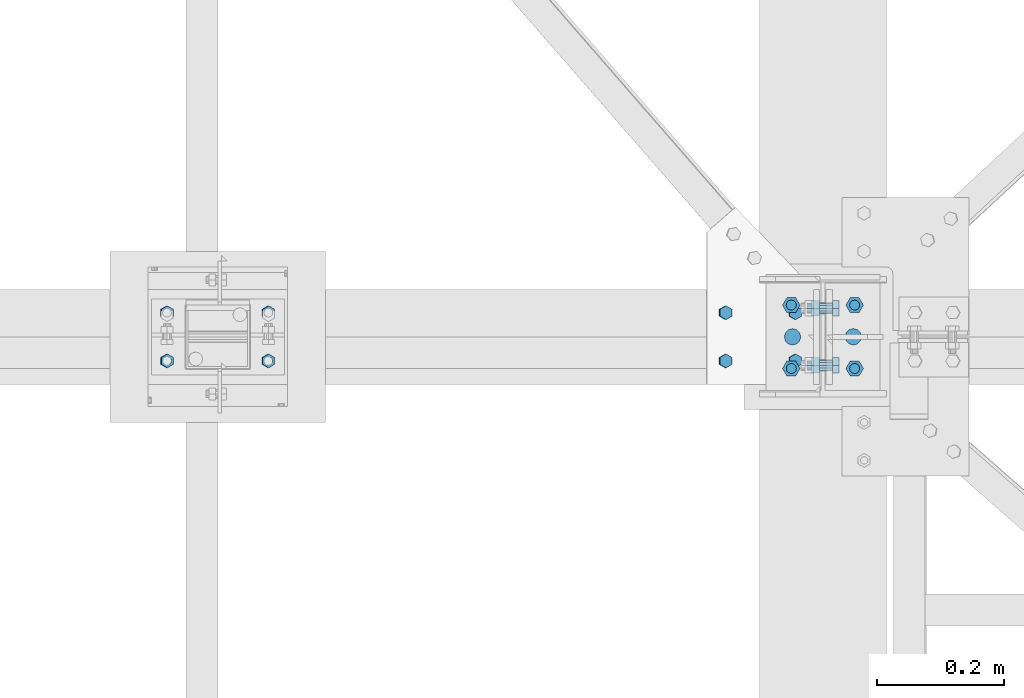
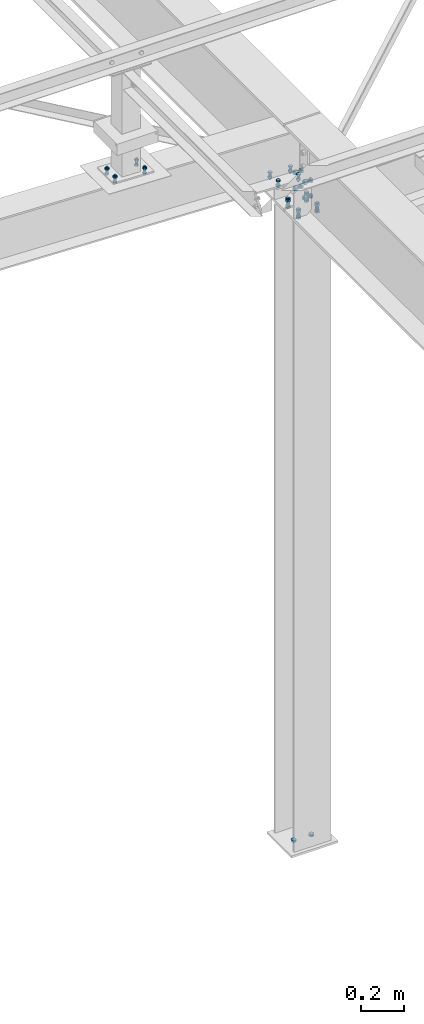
# One storey, part 86 of 3134: 7 mechanical fasteners, 5 elements without a shape of their own.
"""IFC2X3 building model written with IfcOpenShell, lengths in millimetres."""

from ifc_helpers import new_model, si_unit, frame, origin_with_axes, place, context, subcontext, project, spatial, faceted_brep, source, transform, mapped, material, type_object, element, aggregate, save


model = new_model("IFC2X3")

# Units and contexts
model_context = context("Model", 3, precision=1e-05, world=origin_with_axes())
body_context = subcontext(model_context, "Body", "Model", "MODEL_VIEW")
ifc_project = project(units=[si_unit("LENGTHUNIT", "METRE", prefix="MILLI"), si_unit("AREAUNIT", "SQUARE_METRE"), si_unit("VOLUMEUNIT", "CUBIC_METRE"), si_unit("MASSUNIT", "GRAM", prefix="KILO"), si_unit("TIMEUNIT", "SECOND"), si_unit("PLANEANGLEUNIT", "RADIAN"), si_unit("SOLIDANGLEUNIT", "STERADIAN"), si_unit("THERMODYNAMICTEMPERATUREUNIT", "DEGREE_CELSIUS"), si_unit("LUMINOUSINTENSITYUNIT", "LUMEN")], contexts=[model_context])

# Site, building, storey
site_placement = place(None, origin_with_axes())
site = spatial("IfcSite", under=ifc_project, at=site_placement, CompositionType="ELEMENT")
building_placement = place(site_placement, origin_with_axes())
building = spatial("IfcBuilding", under=site, at=building_placement, Name="Undefined", CompositionType="ELEMENT")
storey_placement = place(building_placement, origin_with_axes())
storey = spatial("IfcBuildingStorey", under=building, at=storey_placement, Name="Undefined", CompositionType="ELEMENT", Elevation=0.0)

# Assembly, mechanical fastener
assembly_1_placement = place(storey_placement, origin_with_axes())
assembly_1 = element("IfcElementAssembly", 1, at=assembly_1_placement, inside=storey, Name="HEA200", AssemblyPlace="NOTDEFINED", PredefinedType="RIGID_FRAME")
ifc_material = material(Name="8.8")
mechanical_fastener_type = type_object("IfcMechanicalFastenerType", Name="Bolt assembly")
shared_shape_1 = source(origin_with_axes(), body_context, "Body", "Brep", [
    faceted_brep([(13.0, 0.0, 0.0), (11.2583302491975, 0.0, 6.50000000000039), (6.49999999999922, 0.0, 11.2583302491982), (-1.34723677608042e-12, 0.0, 13.0), (-6.50000000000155, 0.0, 11.2583302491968), (-11.2583302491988, 0.0, 6.49999999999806), (-13.0, 0.0, -2.69447355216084e-12), (-11.2583302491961, 0.0, -6.50000000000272), (-6.4999999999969, 0.0, -11.2583302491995), (4.02727742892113e-12, 0.0, -13.0), (6.50000000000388, 0.0, -11.2583302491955), (11.2583302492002, 0.0, -6.49999999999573), (11.2583302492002, 12.1, -6.49999999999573), (6.50000000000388, 12.1, -11.2583302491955), (4.02727742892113e-12, 12.1, -13.0), (-6.4999999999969, 12.1, -11.2583302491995), (-11.2583302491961, 12.1, -6.50000000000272), (-13.0, 12.1, -2.69447355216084e-12), (-11.2583302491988, 12.1, 6.49999999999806), (-6.50000000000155, 12.1, 11.2583302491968), (-1.34723677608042e-12, 12.1, 13.0), (6.49999999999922, 12.1, 11.2583302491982), (11.2583302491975, 12.1, 6.50000000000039), (13.0, 12.1, 0.0)], [[[0, 1, 2, 3, 4, 5, 6, 7, 8, 9, 10, 11]], [[12, 13, 14, 15, 16, 17, 18, 19, 20, 21, 22, 23]], [[0, 23, 22, 1]], [[1, 22, 21, 2]], [[2, 21, 20, 3]], [[3, 20, 19, 4]], [[4, 19, 18, 5]], [[5, 18, 17, 6]], [[6, 17, 16, 7]], [[7, 16, 15, 8]], [[8, 15, 14, 9]], [[9, 14, 13, 10]], [[10, 13, 12, 11]], [[11, 12, 23, 0]]]),
])
mechanical_fastener_1_placement = place(assembly_1_placement, frame((9295.0, 29575.0, -400.0), z_axis=(1.0, 0.0, 0.0), x_axis=(0.0, 1.0, 0.0)))
mechanical_fastener_1 = element("IfcMechanicalFastener", 2, at=mechanical_fastener_1_placement, type_object=mechanical_fastener_type, material=ifc_material, Name="Bolt assembly", NominalDiameter=24.0, NominalLength=12.0, context=body_context, shape_type="MappedRepresentation", body=[
    mapped(shared_shape_1, transform((0.0, 0.0, -48.0))),
    mapped(shared_shape_1, transform((0.0, 0.0, 48.0))),
])
aggregate(assembly_1, [mechanical_fastener_1])

assembly_2_placement = place(storey_placement, origin_with_axes())
assembly_2 = element("IfcElementAssembly", 3, at=assembly_2_placement, inside=storey, Name="IPE500", AssemblyPlace="NOTDEFINED", PredefinedType="RIGID_FRAME")
shared_shape_2 = source(origin_with_axes(), body_context, "Body", "Brep", [
    faceted_brep([(13.856406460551, -10.0, 0.0), (6.92820323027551, -10.0, 12.0), (-6.92820323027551, -10.0, 12.0), (-13.856406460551, -10.0, 1.69692038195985e-15), (-6.92820323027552, -10.0, -12.0), (6.9282032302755, -10.0, -12.0), (6.9282032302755, 0.0, -12.0), (-6.92820323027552, 0.0, -12.0), (-13.856406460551, 0.0, 1.69692038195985e-15), (-6.92820323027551, 0.0, 12.0), (6.92820323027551, 0.0, 12.0), (13.856406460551, 0.0, 0.0), (8.0, 0.0, 0.0), (6.92820323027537, 0.0, 4.00000000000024), (3.99999999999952, 0.0, 6.92820323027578), (-8.29068785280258e-13, 0.0, 8.0), (-4.00000000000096, 0.0, 6.92820323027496), (-6.9282032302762, 0.0, 3.99999999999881), (-8.0, 0.0, -1.65813757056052e-12), (-6.92820323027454, 0.0, -4.00000000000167), (-3.99999999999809, 0.0, -6.92820323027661), (2.47832457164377e-12, 0.0, -8.0), (4.00000000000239, 0.0, -6.92820323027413), (6.92820323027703, 0.0, -3.99999999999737), (6.92820323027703, 45.0, -3.99999999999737), (4.00000000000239, 45.0, -6.92820323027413), (2.47832457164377e-12, 45.0, -8.0), (-3.99999999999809, 45.0, -6.92820323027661), (-6.92820323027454, 45.0, -4.00000000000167), (-8.0, 45.0, -1.65813757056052e-12), (-6.9282032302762, 45.0, 3.99999999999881), (-4.00000000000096, 45.0, 6.92820323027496), (-8.29068785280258e-13, 45.0, 8.0), (3.99999999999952, 45.0, 6.92820323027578), (6.92820323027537, 45.0, 4.00000000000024), (8.0, 45.0, 0.0), (13.856406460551, 27.9999995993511, 0.0), (6.92820323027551, 27.9999995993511, 12.0), (-6.92820323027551, 27.9999995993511, 12.0), (-13.856406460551, 27.9999995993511, 1.69692038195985e-15), (-6.92820323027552, 27.9999995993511, -12.0), (6.9282032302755, 27.9999995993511, -12.0), (6.9282032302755, 41.0, -12.0), (-6.92820323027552, 41.0, -12.0), (-13.856406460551, 41.0, 1.69692038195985e-15), (-6.92820323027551, 41.0, 12.0), (6.92820323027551, 41.0, 12.0), (13.856406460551, 41.0, 0.0)], [[[0, 1, 2, 3, 4, 5]], [[6, 7, 8, 9, 10, 11]], [[0, 11, 10, 1]], [[1, 10, 9, 2]], [[2, 9, 8, 3]], [[3, 8, 7, 4]], [[4, 7, 6, 5]], [[5, 6, 11, 0]], [[12, 13, 14, 15, 16, 17, 18, 19, 20, 21, 22, 23]], [[24, 25, 26, 27, 28, 29, 30, 31, 32, 33, 34, 35]], [[12, 35, 34, 13]], [[13, 34, 33, 14]], [[14, 33, 32, 15]], [[15, 32, 31, 16]], [[16, 31, 30, 17]], [[17, 30, 29, 18]], [[18, 29, 28, 19]], [[19, 28, 27, 20]], [[20, 27, 26, 21]], [[21, 26, 25, 22]], [[22, 25, 24, 23]], [[23, 24, 35, 12]], [[36, 37, 38, 39, 40, 41]], [[42, 43, 44, 45, 46, 47]], [[36, 47, 46, 37]], [[37, 46, 45, 38]], [[38, 45, 44, 39]], [[39, 44, 43, 40]], [[40, 43, 42, 41]], [[41, 42, 47, 36]]]),
    faceted_brep([(9.0, 0.100000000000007, 0.0), (7.79422863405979, 0.100000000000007, 4.50000000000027), (4.49999999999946, 0.100000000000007, 7.79422863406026), (-9.3270238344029e-13, 0.100000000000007, 9.0), (-4.50000000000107, 0.100000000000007, 7.79422863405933), (-7.79422863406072, 0.100000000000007, 4.49999999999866), (-9.0, 0.100000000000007, -1.86540476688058e-12), (-7.79422863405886, 0.100000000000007, -4.50000000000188), (-4.49999999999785, 0.100000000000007, -7.79422863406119), (2.78811514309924e-12, 0.100000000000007, -9.0), (4.50000000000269, 0.100000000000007, -7.7942286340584), (7.79422863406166, 0.100000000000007, -4.49999999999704), (7.79422863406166, 12.1, -4.49999999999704), (4.50000000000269, 12.1, -7.7942286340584), (2.78811514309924e-12, 12.1, -9.0), (-4.49999999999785, 12.1, -7.79422863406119), (-7.79422863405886, 12.1, -4.50000000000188), (-9.0, 12.1, -1.86540476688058e-12), (-7.79422863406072, 12.1, 4.49999999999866), (-4.50000000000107, 12.1, 7.79422863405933), (-9.3270238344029e-13, 12.1, 9.0), (4.49999999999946, 12.1, 7.79422863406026), (7.79422863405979, 12.1, 4.50000000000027), (9.0, 12.1, 0.0), (9.0, 11.9, 0.0), (7.79422863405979, 11.9, 4.50000000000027), (4.49999999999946, 11.9, 7.79422863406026), (-9.3270238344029e-13, 11.9, 9.0), (-4.50000000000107, 11.9, 7.79422863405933), (-7.79422863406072, 11.9, 4.49999999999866), (-9.0, 11.9, -1.86540476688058e-12), (-7.79422863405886, 11.9, -4.50000000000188), (-4.49999999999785, 11.9, -7.79422863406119), (2.78811514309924e-12, 11.9, -9.0), (4.50000000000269, 11.9, -7.7942286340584), (7.79422863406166, 11.9, -4.49999999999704), (7.79422863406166, 28.0, -4.49999999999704), (4.50000000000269, 28.0, -7.7942286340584), (2.78811514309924e-12, 28.0, -9.0), (-4.49999999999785, 28.0, -7.79422863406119), (-7.79422863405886, 28.0, -4.50000000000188), (-9.0, 28.0, -1.86540476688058e-12), (-7.79422863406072, 28.0, 4.49999999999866), (-4.50000000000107, 28.0, 7.79422863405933), (-9.3270238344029e-13, 28.0, 9.0), (4.49999999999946, 28.0, 7.79422863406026), (7.79422863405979, 28.0, 4.50000000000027), (9.0, 28.0, 0.0)], [[[0, 1, 2, 3, 4, 5, 6, 7, 8, 9, 10, 11]], [[12, 13, 14, 15, 16, 17, 18, 19, 20, 21, 22, 23]], [[0, 23, 22, 1]], [[1, 22, 21, 2]], [[2, 21, 20, 3]], [[3, 20, 19, 4]], [[4, 19, 18, 5]], [[5, 18, 17, 6]], [[6, 17, 16, 7]], [[7, 16, 15, 8]], [[8, 15, 14, 9]], [[9, 14, 13, 10]], [[10, 13, 12, 11]], [[11, 12, 23, 0]], [[24, 25, 26, 27, 28, 29, 30, 31, 32, 33, 34, 35]], [[36, 37, 38, 39, 40, 41, 42, 43, 44, 45, 46, 47]], [[24, 47, 46, 25]], [[25, 46, 45, 26]], [[26, 45, 44, 27]], [[27, 44, 43, 28]], [[28, 43, 42, 29]], [[29, 42, 41, 30]], [[30, 41, 40, 31]], [[31, 40, 39, 32]], [[32, 39, 38, 33]], [[33, 38, 37, 34]], [[34, 37, 36, 35]], [[35, 36, 47, 24]]]),
])
mechanical_fastener_2_placement = place(assembly_2_placement, frame((9345.0, 29625.0, 3202.67), z_axis=(0.0, 1.0, 0.0), x_axis=(-1.0, 0.0, 0.0)))
mechanical_fastener_2 = element("IfcMechanicalFastener", 4, at=mechanical_fastener_2_placement, type_object=mechanical_fastener_type, material=ifc_material, Name="Bolt assembly", NominalDiameter=16.0, NominalLength=45.0, context=body_context, shape_type="MappedRepresentation", body=[
    mapped(shared_shape_2, transform((0.0, 0.0, 0.0))),
    mapped(shared_shape_2, transform((100.0, 0.0, 0.0))),
])

assembly_3_placement = place(storey_placement, origin_with_axes())
assembly_3 = element("IfcElementAssembly", 5, at=assembly_3_placement, inside=storey, Name="IPE500", AssemblyPlace="NOTDEFINED", PredefinedType="RIGID_FRAME")
mechanical_fastener_3_placement = place(assembly_3_placement, frame((9345.0, 29525.0, 3202.67), z_axis=(0.0, 1.0, 0.0), x_axis=(-1.0, 0.0, 0.0)))
mechanical_fastener_3 = element("IfcMechanicalFastener", 6, at=mechanical_fastener_3_placement, type_object=mechanical_fastener_type, material=ifc_material, Name="Bolt assembly", NominalDiameter=16.0, NominalLength=45.0, context=body_context, shape_type="MappedRepresentation", body=[
    mapped(shared_shape_2, transform((0.0, 0.0, 0.0))),
    mapped(shared_shape_2, transform((100.0, 0.0, 0.0))),
])

assembly_4_placement = place(storey_placement, origin_with_axes())
assembly_4 = element("IfcElementAssembly", 7, at=assembly_4_placement, inside=storey, Name="PL8", AssemblyPlace="NOTDEFINED", PredefinedType="RIGID_FRAME")
shared_shape_3 = source(origin_with_axes(), body_context, "Body", "Brep", [
    faceted_brep([(10.9696551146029, -21.2001618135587, 0.0), (5.48482755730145, -21.2001618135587, 9.5), (-5.48482755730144, -21.2001618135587, 9.5), (-10.9696551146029, -21.2001618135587, 1.34339530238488e-15), (-5.48482755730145, -21.2001618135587, -9.5), (5.48482755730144, -21.2001618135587, -9.50000000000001), (5.48482755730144, -13.2001618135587, -9.50000000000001), (-5.48482755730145, -13.2001618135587, -9.5), (-10.9696551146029, -13.2001618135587, 1.34339530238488e-15), (-5.48482755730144, -13.2001618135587, 9.5), (5.48482755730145, -13.2001618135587, 9.5), (10.9696551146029, -13.2001618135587, 0.0), (6.0, -13.2001618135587, 0.0), (5.19615242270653, -13.2001618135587, 3.00000000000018), (2.99999999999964, -13.2001618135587, 5.19615242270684), (-6.21801588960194e-13, -13.2001618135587, 6.0), (-3.00000000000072, -13.2001618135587, 5.19615242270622), (-5.19615242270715, -13.2001618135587, 2.9999999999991), (-6.0, -13.2001618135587, -1.24360317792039e-12), (-5.19615242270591, -13.2001618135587, -3.00000000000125), (-2.99999999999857, -13.2001618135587, -5.19615242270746), (1.85874342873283e-12, -13.2001618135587, -6.0), (3.00000000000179, -13.2001618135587, -5.1961524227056), (5.19615242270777, -13.2001618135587, -2.99999999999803), (5.19615242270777, 21.7998381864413, -2.99999999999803), (3.00000000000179, 21.7998381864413, -5.1961524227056), (1.85874342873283e-12, 21.7998381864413, -6.0), (-2.99999999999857, 21.7998381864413, -5.19615242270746), (-5.19615242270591, 21.7998381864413, -3.00000000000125), (-6.0, 21.7998381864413, -1.24360317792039e-12), (-5.19615242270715, 21.7998381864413, 2.9999999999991), (-3.00000000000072, 21.7998381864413, 5.19615242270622), (-6.21801588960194e-13, 21.7998381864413, 6.0), (2.99999999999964, 21.7998381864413, 5.19615242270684), (5.19615242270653, 21.7998381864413, 3.00000000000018), (6.0, 21.7998381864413, 0.0), (10.9696551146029, 4.00000000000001, 0.0), (5.48482755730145, 4.00000000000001, 9.5), (-5.48482755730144, 4.00000000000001, 9.5), (-10.9696551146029, 4.00000000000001, 1.34339530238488e-15), (-5.48482755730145, 4.00000000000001, -9.5), (5.48482755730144, 4.00000000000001, -9.50000000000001), (5.48482755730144, 14.0, -9.50000000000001), (-5.48482755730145, 14.0, -9.5), (-10.9696551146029, 14.0, 1.34339530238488e-15), (-5.48482755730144, 14.0, 9.5), (5.48482755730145, 14.0, 9.5), (10.9696551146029, 14.0, 0.0)], [[[0, 1, 2, 3, 4, 5]], [[6, 7, 8, 9, 10, 11]], [[0, 11, 10, 1]], [[1, 10, 9, 2]], [[2, 9, 8, 3]], [[3, 8, 7, 4]], [[4, 7, 6, 5]], [[5, 6, 11, 0]], [[12, 13, 14, 15, 16, 17, 18, 19, 20, 21, 22, 23]], [[24, 25, 26, 27, 28, 29, 30, 31, 32, 33, 34, 35]], [[12, 35, 34, 13]], [[13, 34, 33, 14]], [[14, 33, 32, 15]], [[15, 32, 31, 16]], [[16, 31, 30, 17]], [[17, 30, 29, 18]], [[18, 29, 28, 19]], [[19, 28, 27, 20]], [[20, 27, 26, 21]], [[21, 26, 25, 22]], [[22, 25, 24, 23]], [[23, 24, 35, 12]], [[36, 37, 38, 39, 40, 41]], [[42, 43, 44, 45, 46, 47]], [[36, 47, 46, 37]], [[37, 46, 45, 38]], [[38, 45, 44, 39]], [[39, 44, 43, 40]], [[40, 43, 42, 41]], [[41, 42, 47, 36]]]),
    faceted_brep([(7.0, -13.1001618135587, 0.0), (6.06217782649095, -13.1001618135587, 3.50000000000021), (3.49999999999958, -13.1001618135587, 6.06217782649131), (-7.25435187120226e-13, -13.1001618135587, 7.0), (-3.50000000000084, -13.1001618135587, 6.06217782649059), (-6.06217782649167, -13.1001618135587, 3.49999999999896), (-7.0, -13.1001618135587, -1.45087037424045e-12), (-6.06217782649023, -13.1001618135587, -3.50000000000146), (-3.49999999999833, -13.1001618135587, -6.06217782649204), (2.1685340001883e-12, -13.1001618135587, -7.0), (3.50000000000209, -13.1001618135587, -6.06217782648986), (6.0621778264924, -13.1001618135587, -3.4999999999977), (6.0621778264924, -3.90018162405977, -3.4999999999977), (3.50000000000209, -3.90014650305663, -6.06217782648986), (2.1685340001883e-12, -3.90018162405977, -7.0), (-3.49999999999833, -3.90014650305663, -6.06217782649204), (-6.06217782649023, -3.90014650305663, -3.50000000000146), (-7.0, -3.90018162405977, -1.45087037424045e-12), (-6.06217782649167, -3.90014650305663, 3.49999999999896), (-3.50000000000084, -3.90014650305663, 6.06217782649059), (-7.25435187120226e-13, -3.90018162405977, 7.0), (3.49999999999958, -3.90018162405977, 6.06217782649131), (6.06217782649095, -3.90018162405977, 3.50000000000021), (7.0, -3.90018162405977, 0.0), (7.0, -4.09998541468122, 0.0), (6.06217782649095, -4.09998541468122, 3.50000000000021), (3.49999999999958, -4.09998541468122, 6.06217782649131), (-7.25435187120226e-13, -4.09998541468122, 7.0), (-3.50000000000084, -4.09998541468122, 6.06217782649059), (-6.06217782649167, -4.09998541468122, 3.49999999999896), (-7.0, -4.09998541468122, -1.45087037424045e-12), (-6.06217782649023, -4.09998541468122, -3.50000000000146), (-3.49999999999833, -4.09998541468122, -6.06217782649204), (2.1685340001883e-12, -4.09998541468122, -7.0), (3.50000000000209, -4.09998541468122, -6.06217782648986), (6.0621778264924, -4.09998541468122, -3.4999999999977), (6.0621778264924, 4.00000000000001, -3.4999999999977), (3.50000000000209, 4.00000000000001, -6.06217782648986), (2.1685340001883e-12, 4.00000000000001, -7.0), (-3.49999999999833, 4.00000000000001, -6.06217782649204), (-6.06217782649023, 4.00000000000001, -3.50000000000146), (-7.0, 4.00000000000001, -1.45087037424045e-12), (-6.06217782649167, 4.00000000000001, 3.49999999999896), (-3.50000000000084, 4.00000000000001, 6.06217782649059), (-7.25435187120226e-13, 4.00000000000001, 7.0), (3.49999999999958, 4.00000000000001, 6.06217782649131), (6.06217782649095, 4.00000000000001, 3.50000000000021), (7.0, 4.00000000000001, 0.0)], [[[0, 1, 2, 3, 4, 5, 6, 7, 8, 9, 10, 11]], [[12, 13, 14, 15, 16, 17, 18, 19, 20, 21, 22, 23]], [[0, 23, 22, 1]], [[1, 22, 21, 2]], [[2, 21, 20, 3]], [[3, 20, 19, 4]], [[4, 19, 18, 5]], [[5, 18, 17, 6]], [[6, 17, 16, 7]], [[7, 16, 15, 8]], [[8, 15, 14, 9]], [[9, 14, 13, 10]], [[10, 13, 12, 11]], [[11, 12, 23, 0]], [[24, 25, 26, 27, 28, 29, 30, 31, 32, 33, 34, 35]], [[36, 37, 38, 39, 40, 41, 42, 43, 44, 45, 46, 47]], [[24, 47, 46, 25]], [[25, 46, 45, 26]], [[26, 45, 44, 27]], [[27, 44, 43, 28]], [[28, 43, 42, 29]], [[29, 42, 41, 30]], [[30, 41, 40, 31]], [[31, 40, 39, 32]], [[32, 39, 38, 33]], [[33, 38, 37, 34]], [[34, 37, 36, 35]], [[35, 36, 47, 24]]]),
])
mechanical_fastener_4_placement = place(assembly_4_placement, frame((9196.19115170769, 29537.0, 3416.94405108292), z_axis=(-0.999388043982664, 0.0, 0.0349791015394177), x_axis=(0.0, 1.0, 0.0)))
mechanical_fastener_4 = element("IfcMechanicalFastener", 8, at=mechanical_fastener_4_placement, type_object=mechanical_fastener_type, material=ifc_material, Name="Bolt assembly", NominalDiameter=12.0, NominalLength=35.0, context=body_context, shape_type="MappedRepresentation", body=[
    mapped(shared_shape_3, transform((0.0, 2.29192664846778e-10, 55.0000000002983))),
    mapped(shared_shape_3, transform((76.0, 2.29192664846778e-10, 55.0000000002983))),
    mapped(shared_shape_3, transform((0.0, -2.31011654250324e-10, -55.0000000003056))),
    mapped(shared_shape_3, transform((76.0, -2.31011654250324e-10, -55.0000000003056))),
])
aggregate(assembly_4, [mechanical_fastener_4])

# Mechanical fastener
shared_shape_4 = source(origin_with_axes(), body_context, "Body", "Brep", [
    faceted_brep([(13.856406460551, -10.0, 0.0), (6.92820323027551, -10.0, 12.0), (-6.92820323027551, -10.0, 12.0), (-13.856406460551, -10.0, 1.69692038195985e-15), (-6.92820323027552, -10.0, -12.0), (6.9282032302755, -10.0, -12.0), (6.9282032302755, 0.0, -12.0), (-6.92820323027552, 0.0, -12.0), (-13.856406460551, 0.0, 1.69692038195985e-15), (-6.92820323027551, 0.0, 12.0), (6.92820323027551, 0.0, 12.0), (13.856406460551, 0.0, 0.0), (8.0, 0.0, 0.0), (6.92820323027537, 0.0, 4.00000000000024), (3.99999999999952, 0.0, 6.92820323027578), (-8.29068785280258e-13, 0.0, 8.0), (-4.00000000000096, 0.0, 6.92820323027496), (-6.9282032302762, 0.0, 3.99999999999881), (-8.0, 0.0, -1.65813757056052e-12), (-6.92820323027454, 0.0, -4.00000000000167), (-3.99999999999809, 0.0, -6.92820323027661), (2.47832457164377e-12, 0.0, -8.0), (4.00000000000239, 0.0, -6.92820323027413), (6.92820323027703, 0.0, -3.99999999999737), (6.92820323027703, 40.0, -3.99999999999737), (4.00000000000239, 40.0, -6.92820323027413), (2.47832457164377e-12, 40.0, -8.0), (-3.99999999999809, 40.0, -6.92820323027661), (-6.92820323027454, 40.0, -4.00000000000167), (-8.0, 40.0, -1.65813757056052e-12), (-6.9282032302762, 40.0, 3.99999999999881), (-4.00000000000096, 40.0, 6.92820323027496), (-8.29068785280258e-13, 40.0, 8.0), (3.99999999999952, 40.0, 6.92820323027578), (6.92820323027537, 40.0, 4.00000000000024), (8.0, 40.0, 0.0), (13.856406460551, 20.1999997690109, 0.0), (6.92820323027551, 20.1999997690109, 12.0), (-6.92820323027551, 20.1999997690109, 12.0), (-13.856406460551, 20.1999997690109, 1.69692038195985e-15), (-6.92820323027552, 20.1999997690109, -12.0), (6.9282032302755, 20.1999997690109, -12.0), (6.9282032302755, 33.1999997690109, -12.0), (-6.92820323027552, 33.1999997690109, -12.0), (-13.856406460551, 33.1999997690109, 1.69692038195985e-15), (-6.92820323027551, 33.1999997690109, 12.0), (6.92820323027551, 33.1999997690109, 12.0), (13.856406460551, 33.1999997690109, 0.0)], [[[0, 1, 2, 3, 4, 5]], [[6, 7, 8, 9, 10, 11]], [[0, 11, 10, 1]], [[1, 10, 9, 2]], [[2, 9, 8, 3]], [[3, 8, 7, 4]], [[4, 7, 6, 5]], [[5, 6, 11, 0]], [[12, 13, 14, 15, 16, 17, 18, 19, 20, 21, 22, 23]], [[24, 25, 26, 27, 28, 29, 30, 31, 32, 33, 34, 35]], [[12, 35, 34, 13]], [[13, 34, 33, 14]], [[14, 33, 32, 15]], [[15, 32, 31, 16]], [[16, 31, 30, 17]], [[17, 30, 29, 18]], [[18, 29, 28, 19]], [[19, 28, 27, 20]], [[20, 27, 26, 21]], [[21, 26, 25, 22]], [[22, 25, 24, 23]], [[23, 24, 35, 12]], [[36, 37, 38, 39, 40, 41]], [[42, 43, 44, 45, 46, 47]], [[36, 47, 46, 37]], [[37, 46, 45, 38]], [[38, 45, 44, 39]], [[39, 44, 43, 40]], [[40, 43, 42, 41]], [[41, 42, 47, 36]]]),
    faceted_brep([(9.0, 0.100000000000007, 0.0), (7.79422863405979, 0.100000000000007, 4.50000000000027), (4.49999999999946, 0.100000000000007, 7.79422863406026), (-9.3270238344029e-13, 0.100000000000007, 9.0), (-4.50000000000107, 0.100000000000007, 7.79422863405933), (-7.79422863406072, 0.100000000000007, 4.49999999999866), (-9.0, 0.100000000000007, -1.86540476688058e-12), (-7.79422863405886, 0.100000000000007, -4.50000000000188), (-4.49999999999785, 0.100000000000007, -7.79422863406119), (2.78811514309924e-12, 0.100000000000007, -9.0), (4.50000000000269, 0.100000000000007, -7.7942286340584), (7.79422863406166, 0.100000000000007, -4.49999999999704), (7.79422863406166, 10.1000023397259, -4.49999999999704), (4.50000000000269, 10.1000023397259, -7.7942286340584), (2.78811514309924e-12, 10.1000023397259, -9.0), (-4.49999999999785, 10.1000023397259, -7.79422863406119), (-7.79422863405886, 10.1000023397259, -4.50000000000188), (-9.0, 10.1000023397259, -1.86540476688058e-12), (-7.79422863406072, 10.1000023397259, 4.49999999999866), (-4.50000000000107, 10.1000023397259, 7.79422863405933), (-9.3270238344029e-13, 10.1000023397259, 9.0), (4.49999999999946, 10.1000023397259, 7.79422863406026), (7.79422863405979, 10.1000023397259, 4.50000000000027), (9.0, 10.1000023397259, 0.0), (9.0, 9.89999999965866, 0.0), (7.79422863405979, 9.89999999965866, 4.50000000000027), (4.49999999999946, 9.89999999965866, 7.79422863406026), (-9.3270238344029e-13, 9.89999999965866, 9.0), (-4.50000000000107, 9.89999999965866, 7.79422863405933), (-7.79422863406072, 9.89999999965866, 4.49999999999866), (-9.0, 9.89999999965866, -1.86540476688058e-12), (-7.79422863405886, 9.89999999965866, -4.50000000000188), (-4.49999999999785, 9.89999999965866, -7.79422863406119), (2.78811514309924e-12, 9.89999999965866, -9.0), (4.50000000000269, 9.89999999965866, -7.7942286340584), (7.79422863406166, 9.89999999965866, -4.49999999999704), (7.79422863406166, 20.1999997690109, -4.49999999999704), (4.50000000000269, 20.1999997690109, -7.7942286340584), (2.78811514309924e-12, 20.1999997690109, -9.0), (-4.49999999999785, 20.1999997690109, -7.79422863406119), (-7.79422863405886, 20.1999997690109, -4.50000000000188), (-9.0, 20.1999997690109, -1.86540476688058e-12), (-7.79422863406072, 20.1999997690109, 4.49999999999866), (-4.50000000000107, 20.1999997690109, 7.79422863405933), (-9.3270238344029e-13, 20.1999997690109, 9.0), (4.49999999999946, 20.1999997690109, 7.79422863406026), (7.79422863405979, 20.1999997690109, 4.50000000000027), (9.0, 20.1999997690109, 0.0)], [[[0, 1, 2, 3, 4, 5, 6, 7, 8, 9, 10, 11]], [[12, 13, 14, 15, 16, 17, 18, 19, 20, 21, 22, 23]], [[0, 23, 22, 1]], [[1, 22, 21, 2]], [[2, 21, 20, 3]], [[3, 20, 19, 4]], [[4, 19, 18, 5]], [[5, 18, 17, 6]], [[6, 17, 16, 7]], [[7, 16, 15, 8]], [[8, 15, 14, 9]], [[9, 14, 13, 10]], [[10, 13, 12, 11]], [[11, 12, 23, 0]], [[24, 25, 26, 27, 28, 29, 30, 31, 32, 33, 34, 35]], [[36, 37, 38, 39, 40, 41, 42, 43, 44, 45, 46, 47]], [[24, 47, 46, 25]], [[25, 46, 45, 26]], [[26, 45, 44, 27]], [[27, 44, 43, 28]], [[28, 43, 42, 29]], [[29, 42, 41, 30]], [[30, 41, 40, 31]], [[31, 40, 39, 32]], [[32, 39, 38, 33]], [[33, 38, 37, 34]], [[34, 37, 36, 35]], [[35, 36, 47, 24]]]),
])
mechanical_fastener_5_placement = place(assembly_3_placement, frame((9310.09999986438, 29530.0, 3381.67000001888), z_axis=(0.0, 1.0, 0.0), x_axis=(0.0, 0.0, -1.0)))
mechanical_fastener_5 = element("IfcMechanicalFastener", 9, at=mechanical_fastener_5_placement, type_object=mechanical_fastener_type, material=ifc_material, Name="Bolt assembly", NominalDiameter=16.0, NominalLength=40.0, context=body_context, shape_type="MappedRepresentation", body=[
    mapped(shared_shape_4, transform((0.0, 0.0, 0.0))),
    mapped(shared_shape_4, transform((90.0, 0.0, 0.0))),
])

aggregate(assembly_3, [mechanical_fastener_3, mechanical_fastener_5])

mechanical_fastener_6_placement = place(assembly_2_placement, frame((9310.09999986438, 29620.0, 3381.67000001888), z_axis=(0.0, 1.0, 0.0), x_axis=(0.0, 0.0, -1.0)))
mechanical_fastener_6 = element("IfcMechanicalFastener", 10, at=mechanical_fastener_6_placement, type_object=mechanical_fastener_type, material=ifc_material, Name="Bolt assembly", NominalDiameter=16.0, NominalLength=40.0, context=body_context, shape_type="MappedRepresentation", body=[
    mapped(shared_shape_4, transform((0.0, 0.0, 0.0))),
    mapped(shared_shape_4, transform((90.0, 0.0, 0.0))),
])

aggregate(assembly_2, [mechanical_fastener_2, mechanical_fastener_6])

# Assembly, mechanical fastener
assembly_5_placement = place(storey_placement, origin_with_axes())
assembly_5 = element("IfcElementAssembly", 11, at=assembly_5_placement, inside=storey, AssemblyPlace="NOTDEFINED", PredefinedType="RIGID_FRAME")
shared_shape_5 = source(origin_with_axes(), body_context, "Body", "Brep", [
    faceted_brep([(10.9696551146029, -4.18346828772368, 0.0), (5.48482755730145, -4.18346828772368, 9.5), (-5.48482755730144, -4.18346828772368, 9.5), (-10.9696551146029, -4.18346828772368, 1.34339530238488e-15), (-5.48482755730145, -4.18346828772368, -9.5), (5.48482755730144, -4.18346828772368, -9.50000000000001), (5.48482755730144, 3.81653171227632, -9.50000000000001), (-5.48482755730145, 3.81653171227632, -9.5), (-10.9696551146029, 3.81653171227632, 1.34339530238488e-15), (-5.48482755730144, 3.81653171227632, 9.5), (5.48482755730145, 3.81653171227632, 9.5), (10.9696551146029, 3.81653171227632, 0.0), (6.0, 3.81653171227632, 0.0), (5.19615242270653, 3.81653171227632, 3.00000000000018), (2.99999999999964, 3.81653171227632, 5.19615242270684), (-6.21801588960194e-13, 3.81653171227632, 6.0), (-3.00000000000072, 3.81653171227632, 5.19615242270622), (-5.19615242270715, 3.81653171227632, 2.9999999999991), (-6.0, 3.81653171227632, -1.24360317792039e-12), (-5.19615242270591, 3.81653171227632, -3.00000000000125), (-2.99999999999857, 3.81653171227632, -5.19615242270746), (1.85874342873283e-12, 3.81653171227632, -6.0), (3.00000000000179, 3.81653171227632, -5.1961524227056), (5.19615242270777, 3.81653171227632, -2.99999999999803), (5.19615242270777, 38.8165317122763, -2.99999999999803), (3.00000000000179, 38.8165317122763, -5.1961524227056), (1.85874342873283e-12, 38.8165317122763, -6.0), (-2.99999999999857, 38.8165317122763, -5.19615242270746), (-5.19615242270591, 38.8165317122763, -3.00000000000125), (-6.0, 38.8165317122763, -1.24360317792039e-12), (-5.19615242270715, 38.8165317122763, 2.9999999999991), (-3.00000000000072, 38.8165317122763, 5.19615242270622), (-6.21801588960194e-13, 38.8165317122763, 6.0), (2.99999999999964, 38.8165317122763, 5.19615242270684), (5.19615242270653, 38.8165317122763, 3.00000000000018), (6.0, 38.8165317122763, 0.0), (10.9696551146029, 23.0139082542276, 0.0), (5.48482755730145, 23.0139082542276, 9.5), (-5.48482755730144, 23.0139082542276, 9.5), (-10.9696551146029, 23.0139082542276, 1.34339530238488e-15), (-5.48482755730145, 23.0139082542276, -9.5), (5.48482755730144, 23.0139082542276, -9.50000000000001), (5.48482755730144, 33.0139082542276, -9.50000000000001), (-5.48482755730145, 33.0139082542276, -9.5), (-10.9696551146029, 33.0139082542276, 1.34339530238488e-15), (-5.48482755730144, 33.0139082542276, 9.5), (5.48482755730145, 33.0139082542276, 9.5), (10.9696551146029, 33.0139082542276, 0.0)], [[[0, 1, 2, 3, 4, 5]], [[6, 7, 8, 9, 10, 11]], [[0, 11, 10, 1]], [[1, 10, 9, 2]], [[2, 9, 8, 3]], [[3, 8, 7, 4]], [[4, 7, 6, 5]], [[5, 6, 11, 0]], [[12, 13, 14, 15, 16, 17, 18, 19, 20, 21, 22, 23]], [[24, 25, 26, 27, 28, 29, 30, 31, 32, 33, 34, 35]], [[12, 35, 34, 13]], [[13, 34, 33, 14]], [[14, 33, 32, 15]], [[15, 32, 31, 16]], [[16, 31, 30, 17]], [[17, 30, 29, 18]], [[18, 29, 28, 19]], [[19, 28, 27, 20]], [[20, 27, 26, 21]], [[21, 26, 25, 22]], [[22, 25, 24, 23]], [[23, 24, 35, 12]], [[36, 37, 38, 39, 40, 41]], [[42, 43, 44, 45, 46, 47]], [[36, 47, 46, 37]], [[37, 46, 45, 38]], [[38, 45, 44, 39]], [[39, 44, 43, 40]], [[40, 43, 42, 41]], [[41, 42, 47, 36]]]),
    faceted_brep([(7.0, 3.91653171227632, 0.0), (6.06217782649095, 3.91653171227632, 3.50000000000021), (3.49999999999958, 3.91653171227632, 6.06217782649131), (-7.25435187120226e-13, 3.91653171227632, 7.0), (-3.50000000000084, 3.91653171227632, 6.06217782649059), (-6.06217782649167, 3.91653171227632, 3.49999999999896), (-7.0, 3.91653171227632, -1.45087037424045e-12), (-6.06217782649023, 3.91653171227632, -3.50000000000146), (-3.49999999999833, 3.91653171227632, -6.06217782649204), (2.1685340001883e-12, 3.91653171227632, -7.0), (3.50000000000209, 3.91653171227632, -6.06217782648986), (6.0621778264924, 3.91653171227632, -3.4999999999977), (6.0621778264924, 13.1165315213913, -3.4999999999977), (3.50000000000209, 13.1165315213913, -6.06217782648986), (2.1685340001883e-12, 13.1165315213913, -7.0), (-3.49999999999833, 13.1165315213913, -6.06217782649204), (-6.06217782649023, 13.1165315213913, -3.50000000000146), (-7.0, 13.1165315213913, -1.45087037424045e-12), (-6.06217782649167, 13.1165315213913, 3.49999999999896), (-3.50000000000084, 13.1165315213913, 6.06217782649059), (-7.25435187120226e-13, 13.1165315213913, 7.0), (3.49999999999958, 13.1165315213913, 6.06217782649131), (6.06217782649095, 13.1165315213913, 3.50000000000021), (7.0, 13.1165315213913, 0.0), (7.0, 14.9139082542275, 0.0), (6.06217782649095, 14.9139082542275, 3.50000000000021), (3.49999999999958, 14.9139082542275, 6.06217782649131), (-7.25435187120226e-13, 14.9139082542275, 7.0), (-3.50000000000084, 14.9139082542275, 6.06217782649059), (-6.06217782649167, 14.9139082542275, 3.49999999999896), (-7.0, 14.9139082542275, -1.45087037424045e-12), (-6.06217782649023, 14.9139082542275, -3.50000000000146), (-3.49999999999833, 14.9139082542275, -6.06217782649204), (2.1685340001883e-12, 14.9139082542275, -7.0), (3.50000000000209, 14.9139082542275, -6.06217782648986), (6.0621778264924, 14.9139082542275, -3.4999999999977), (6.0621778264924, 23.0139082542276, -3.4999999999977), (3.50000000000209, 23.0139082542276, -6.06217782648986), (2.1685340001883e-12, 23.0139082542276, -7.0), (-3.49999999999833, 23.0139082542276, -6.06217782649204), (-6.06217782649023, 23.0139082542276, -3.50000000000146), (-7.0, 23.0139082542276, -1.45087037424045e-12), (-6.06217782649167, 23.0139082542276, 3.49999999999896), (-3.50000000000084, 23.0139082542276, 6.06217782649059), (-7.25435187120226e-13, 23.0139082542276, 7.0), (3.49999999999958, 23.0139082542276, 6.06217782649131), (6.06217782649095, 23.0139082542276, 3.50000000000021), (7.0, 23.0139082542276, 0.0)], [[[0, 1, 2, 3, 4, 5, 6, 7, 8, 9, 10, 11]], [[12, 13, 14, 15, 16, 17, 18, 19, 20, 21, 22, 23]], [[0, 23, 22, 1]], [[1, 22, 21, 2]], [[2, 21, 20, 3]], [[3, 20, 19, 4]], [[4, 19, 18, 5]], [[5, 18, 17, 6]], [[6, 17, 16, 7]], [[7, 16, 15, 8]], [[8, 15, 14, 9]], [[9, 14, 13, 10]], [[10, 13, 12, 11]], [[11, 12, 23, 0]], [[24, 25, 26, 27, 28, 29, 30, 31, 32, 33, 34, 35]], [[36, 37, 38, 39, 40, 41, 42, 43, 44, 45, 46, 47]], [[24, 47, 46, 25]], [[25, 46, 45, 26]], [[26, 45, 44, 27]], [[27, 44, 43, 28]], [[28, 43, 42, 29]], [[29, 42, 41, 30]], [[30, 41, 40, 31]], [[31, 40, 39, 32]], [[32, 39, 38, 33]], [[33, 38, 37, 34]], [[34, 37, 36, 35]], [[35, 36, 47, 24]]]),
])
mechanical_fastener_7_placement = place(assembly_5_placement, frame((8339.1931765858, 29612.9999999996, 3735.10000668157), z_axis=(-0.999387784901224, 0.0, 0.0349865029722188), x_axis=(0.0, -1.0, 0.0)))
mechanical_fastener_7 = element("IfcMechanicalFastener", 12, at=mechanical_fastener_7_placement, type_object=mechanical_fastener_type, material=ifc_material, Name="Bolt assembly", NominalDiameter=12.0, NominalLength=35.0, context=body_context, shape_type="MappedRepresentation", body=[
    mapped(shared_shape_5, transform((0.0, -5.32963895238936e-10, -79.9999999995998))),
    mapped(shared_shape_5, transform((76.0, -5.32963895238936e-10, -79.9999999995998))),
    mapped(shared_shape_5, transform((0.0, 5.3114490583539e-10, 79.9999999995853))),
    mapped(shared_shape_5, transform((76.0, 5.3114490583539e-10, 79.9999999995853))),
])
aggregate(assembly_5, [mechanical_fastener_7])

save(model, "model.ifc")
